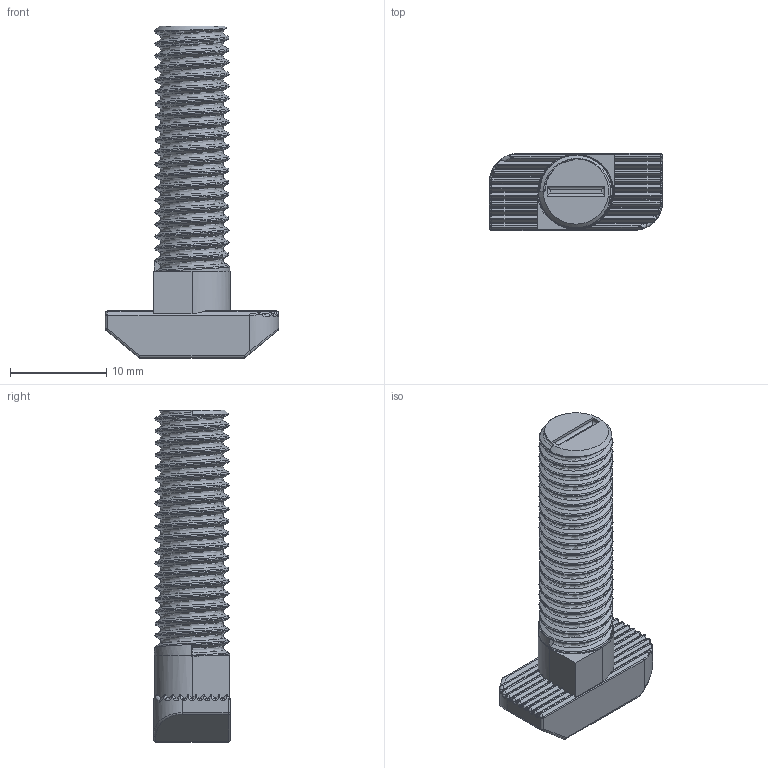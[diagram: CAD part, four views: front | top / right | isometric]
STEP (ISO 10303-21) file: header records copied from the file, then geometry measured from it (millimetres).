
FILE_DESCRIPTION (( 'STEP AP203' ), '1' );
FILE_NAME ('5262.STEP', '2017-02-02T05:57:17', ( 'RosInstal-MKM' ), ( '' ), 'SwSTEP 2.0', 'SolidWorks 2014', '' );
FILE_SCHEMA (( 'CONFIG_CONTROL_DESIGN' ));
Length unit declared in the file: millimetre
Products named in the file (1): 5262
Bounding box: 18 x 8 x 34.5 mm (x, y, z)
Volume: 1813.3 mm3; surface area: 1438.3 mm2
Topology: 1 solids, 1 shells, 248 faces, 623 edges, 350 vertices
Faces by surface type: cylinder 102, plane 60, bspline 60, torus 17, sphere 8, cone 1
Entity records: 15223 total; most frequent: CARTESIAN_POINT 10022, ORIENTED_EDGE 1190, DIRECTION 960, EDGE_CURVE 595, AXIS2_PLACEMENT_3D 364, VERTEX_POINT 350, EDGE_LOOP 249, FACE_OUTER_BOUND 248
